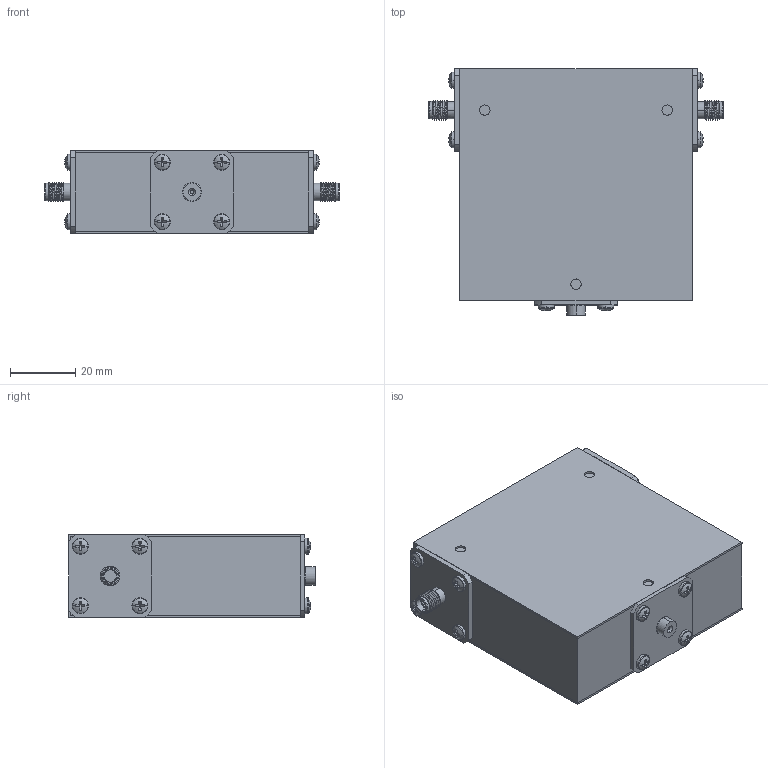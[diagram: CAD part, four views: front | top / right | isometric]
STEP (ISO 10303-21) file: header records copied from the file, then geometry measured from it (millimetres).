
FILE_DESCRIPTION (( 'STEP AP214' ), '1' );
FILE_NAME ('Package 20 Iso FF.step', '2021-12-01T20:59:50', ( '' ), ( '' ), 'SwSTEP 2.0', 'SolidWorks 2016', '' );
FILE_SCHEMA (( 'AUTOMOTIVE_DESIGN' ));
Length unit declared in the file: inch
Products named in the file (6): 1 inch; Package Size 20; Delta SMA-Female 1 inch flange threaded; Package 20; pan cross head_ai_CR-PHMS 0.099-56x0.125x0.125-N; Package 20 Iso FF
Assembly tree (17 placements, depth 2):
  Package 20 Iso FF
    Package Size 20
    Package 20
    Delta SMA-Female 1 inch flange threaded  x2
    pan cross head_ai_CR-PHMS 0.099-56x0.125x0.125-N  x12
    1 inch
Bounding box: 90.17 x 75.56 x 25.4 mm (x, y, z)
Volume: 131922.6 mm3; surface area: 46731.5 mm2
Topology: 17 solids, 17 shells, 414 faces, 942 edges, 582 vertices
Faces by surface type: plane 228, cylinder 122, torus 30, sphere 24, bspline 6, cone 4
Entity records: 4765 total; most frequent: CARTESIAN_POINT 1369, DIRECTION 717, ORIENTED_EDGE 594, EDGE_CURVE 297, AXIS2_PLACEMENT_3D 289, VERTEX_POINT 191, EDGE_LOOP 160, CIRCLE 150
